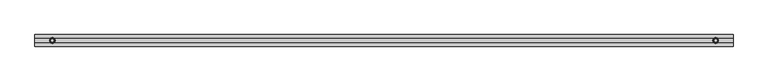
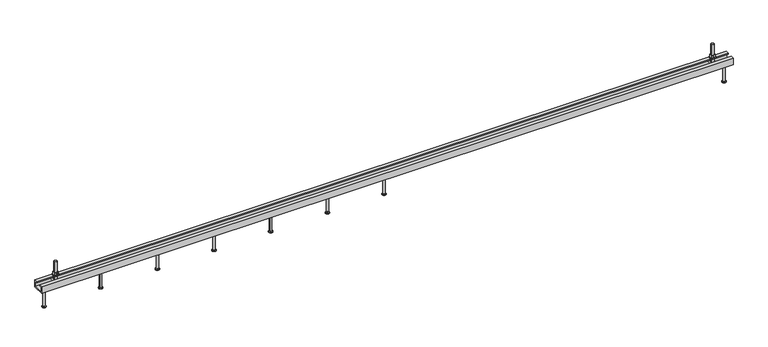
"""IFC4 building model written with IfcOpenShell, lengths in millimetres: fastener geometry, JTA-W JORDAHL® AnchorChannels : JTA-W L=3000 mm."""

from ifc_helpers import new_model, si_unit, point, frame, frame_2d, origin, place, context, project, spatial, polyline, circle_curve, trimmed, segment, composite_curve, outline, extrude, source, transform, mapped, element, save
from ifc_brep_helpers import plane_surface, cylinder_surface, revolved_surface, advanced_brep


def fastener_6a71478e(model_context):
    return source(origin(), model_context, "Body", "SolidModel", [
        advanced_brep(
        [(1500.0, 0.0, -30.0), (1486.5, 0.0, -30.0), (1513.5, 0.0, -30.0), (1491.5, 0.0, -115.0), (1500.0, 0.0, -115.0), (1508.5, 0.0, -115.0), (1491.5, 0.0, -113.0), (1508.5, 0.0, -113.0), (1495.5, 0.0, -110.6905989), (1504.5, 0.0, -110.6905989), (1495.5, 0.0, -32.5), (1504.5, 0.0, -32.5)],
        [
            (0, 1),
            (1, 2, circle_curve(frame((1500.0, 0.0, -30.0), z_axis=(0.0, 0.0, 1.0), x_axis=(1.0, 0.0, 0.0)), 13.5)),
            (2, 0),
            (2, 1, circle_curve(frame((1500.0, 0.0, -30.0), z_axis=(0.0, 0.0, 1.0), x_axis=(1.0, 0.0, 0.0)), 13.5)),
            (3, 4),
            (4, 5),
            (5, 3, circle_curve(frame((1500.0, 0.0, -115.0), z_axis=(0.0, 0.0, -1.0), x_axis=(1.0, 0.0, 0.0)), 8.5)),
            (3, 5, circle_curve(frame((1500.0, 0.0, -115.0), z_axis=(0.0, 0.0, -1.0), x_axis=(1.0, 0.0, 0.0)), 8.5)),
            (6, 3),
            (5, 7),
            (7, 6, circle_curve(frame((1500.0, 0.0, -113.0), z_axis=(0.0, 0.0, -1.0), x_axis=(1.0, 0.0, 0.0)), 8.5)),
            (6, 7, circle_curve(frame((1500.0, 0.0, -113.0), z_axis=(0.0, 0.0, -1.0), x_axis=(1.0, 0.0, 0.0)), 8.5)),
            (8, 6),
            (7, 9),
            (9, 8, circle_curve(frame((1500.0, 0.0, -110.6905989), z_axis=(0.0, 0.0, -1.0), x_axis=(1.0, 0.0, 0.0)), 4.5)),
            (8, 9, circle_curve(frame((1500.0, 0.0, -110.6905989), z_axis=(0.0, 0.0, -1.0), x_axis=(1.0, 0.0, 0.0)), 4.5)),
            (10, 8),
            (9, 11),
            (11, 10, circle_curve(frame((1500.0, 0.0, -32.5), z_axis=(0.0, 0.0, -1.0), x_axis=(1.0, 0.0, 0.0)), 4.5)),
            (10, 11, circle_curve(frame((1500.0, 0.0, -32.5), z_axis=(0.0, 0.0, -1.0), x_axis=(1.0, 0.0, 0.0)), 4.5)),
            (1, 10),
            (11, 2),
        ],
        [
            plane_surface(frame((1500.0, 0.0, -30.0), z_axis=(0.0, 0.0, 1.0), x_axis=(1.0, 0.0, 0.0))),
            plane_surface(frame((1500.0, 0.0, -115.0), z_axis=(0.0, 0.0, -1.0), x_axis=(1.0, 0.0, 0.0))),
            cylinder_surface(frame((1500.0, 0.0, 2299.3150031), z_axis=(0.0, 0.0, 1.0), x_axis=(1.0, 0.0, 0.0)), 8.5),
            revolved_surface(polyline([(1508.5, 0.0, -113.0), (1504.5, 0.0, -110.6905989)]), (1500.0, 0.0, 2299.3150031), (0.0, 0.0, 1.0)),
            cylinder_surface(frame((1500.0, 0.0, 2299.3150031), z_axis=(0.0, 0.0, 1.0), x_axis=(1.0, 0.0, 0.0)), 4.5),
            revolved_surface(polyline([(1504.5, 0.0, -32.5), (1513.5, 0.0, -30.0)]), (1500.0, 0.0, 2299.3150031), (0.0, 0.0, 1.0)),
        ],
        [
            (0, [[1, 2, 3]]),
            (0, [[-3, 4, -1]]),
            (1, [[5, 6, 7]]),
            (1, [[-6, -5, 8]]),
            (2, [[9, -7, 10, 11]]),
            (2, [[-10, -8, -9, 12]]),
            (3, [[13, -11, 14, 15]]),
            (3, [[-14, -12, -13, 16]]),
            (4, [[17, -15, 18, 19]]),
            (4, [[-18, -16, -17, 20]]),
            (5, [[21, -19, 22, -2]]),
            (5, [[-22, -20, -21, -4]]),
        ],
    ),
        advanced_brep(
        [(1254.1666667, 0.0, -30.0), (1240.6666667, 0.0, -30.0), (1267.6666667, 0.0, -30.0), (1245.6666667, 0.0, -115.0), (1254.1666667, 0.0, -115.0), (1262.6666667, 0.0, -115.0), (1245.6666667, 0.0, -113.0), (1262.6666667, 0.0, -113.0), (1249.6666667, 0.0, -110.6905989), (1258.6666667, 0.0, -110.6905989), (1249.6666667, 0.0, -32.5), (1258.6666667, 0.0, -32.5)],
        [
            (0, 1),
            (1, 2, circle_curve(frame((1254.1666667, 0.0, -30.0), z_axis=(0.0, 0.0, 1.0), x_axis=(1.0, 0.0, 0.0)), 13.5)),
            (2, 0),
            (2, 1, circle_curve(frame((1254.1666667, 0.0, -30.0), z_axis=(0.0, 0.0, 1.0), x_axis=(1.0, 0.0, 0.0)), 13.5)),
            (3, 4),
            (4, 5),
            (5, 3, circle_curve(frame((1254.1666667, 0.0, -115.0), z_axis=(0.0, 0.0, -1.0), x_axis=(1.0, 0.0, 0.0)), 8.5)),
            (3, 5, circle_curve(frame((1254.1666667, 0.0, -115.0), z_axis=(0.0, 0.0, -1.0), x_axis=(1.0, 0.0, 0.0)), 8.5)),
            (6, 3),
            (5, 7),
            (7, 6, circle_curve(frame((1254.1666667, 0.0, -113.0), z_axis=(0.0, 0.0, -1.0), x_axis=(1.0, 0.0, 0.0)), 8.5)),
            (6, 7, circle_curve(frame((1254.1666667, 0.0, -113.0), z_axis=(0.0, 0.0, -1.0), x_axis=(1.0, 0.0, 0.0)), 8.5)),
            (8, 6),
            (7, 9),
            (9, 8, circle_curve(frame((1254.1666667, 0.0, -110.6905989), z_axis=(0.0, 0.0, -1.0), x_axis=(1.0, 0.0, 0.0)), 4.5)),
            (8, 9, circle_curve(frame((1254.1666667, 0.0, -110.6905989), z_axis=(0.0, 0.0, -1.0), x_axis=(1.0, 0.0, 0.0)), 4.5)),
            (10, 8),
            (9, 11),
            (11, 10, circle_curve(frame((1254.1666667, 0.0, -32.5), z_axis=(0.0, 0.0, -1.0), x_axis=(1.0, 0.0, 0.0)), 4.5)),
            (10, 11, circle_curve(frame((1254.1666667, 0.0, -32.5), z_axis=(0.0, 0.0, -1.0), x_axis=(1.0, 0.0, 0.0)), 4.5)),
            (1, 10),
            (11, 2),
        ],
        [
            plane_surface(frame((1254.1666667, 0.0, -30.0), z_axis=(0.0, 0.0, 1.0), x_axis=(1.0, 0.0, 0.0))),
            plane_surface(frame((1254.1666667, 0.0, -115.0), z_axis=(0.0, 0.0, -1.0), x_axis=(1.0, 0.0, 0.0))),
            cylinder_surface(frame((1254.1666667, 0.0, 2299.3150031), z_axis=(0.0, 0.0, 1.0), x_axis=(1.0, 0.0, 0.0)), 8.5),
            revolved_surface(polyline([(1262.6666667, 0.0, -113.0), (1258.6666667, 0.0, -110.6905989)]), (1254.1666667, 0.0, 2299.3150031), (0.0, 0.0, 1.0)),
            cylinder_surface(frame((1254.1666667, 0.0, 2299.3150031), z_axis=(0.0, 0.0, 1.0), x_axis=(1.0, 0.0, 0.0)), 4.5),
            revolved_surface(polyline([(1258.6666667, 0.0, -32.5), (1267.6666667, 0.0, -30.0)]), (1254.1666667, 0.0, 2299.3150031), (0.0, 0.0, 1.0)),
        ],
        [
            (0, [[1, 2, 3]]),
            (0, [[-3, 4, -1]]),
            (1, [[5, 6, 7]]),
            (1, [[-6, -5, 8]]),
            (2, [[9, -7, 10, 11]]),
            (2, [[-10, -8, -9, 12]]),
            (3, [[13, -11, 14, 15]]),
            (3, [[-14, -12, -13, 16]]),
            (4, [[17, -15, 18, 19]]),
            (4, [[-18, -16, -17, 20]]),
            (5, [[21, -19, 22, -2]]),
            (5, [[-22, -20, -21, -4]]),
        ],
    ),
        advanced_brep(
        [(1008.3333333, 0.0, -30.0), (994.8333333, 0.0, -30.0), (1021.8333333, 0.0, -30.0), (999.8333333, 0.0, -115.0), (1008.3333333, 0.0, -115.0), (1016.8333333, 0.0, -115.0), (999.8333333, 0.0, -113.0), (1016.8333333, 0.0, -113.0), (1003.8333333, 0.0, -110.6905989), (1012.8333333, 0.0, -110.6905989), (1003.8333333, 0.0, -32.5), (1012.8333333, 0.0, -32.5)],
        [
            (0, 1),
            (1, 2, circle_curve(frame((1008.3333333, 0.0, -30.0), z_axis=(0.0, 0.0, 1.0), x_axis=(1.0, 0.0, 0.0)), 13.5)),
            (2, 0),
            (2, 1, circle_curve(frame((1008.3333333, 0.0, -30.0), z_axis=(0.0, 0.0, 1.0), x_axis=(1.0, 0.0, 0.0)), 13.5)),
            (3, 4),
            (4, 5),
            (5, 3, circle_curve(frame((1008.3333333, 0.0, -115.0), z_axis=(0.0, 0.0, -1.0), x_axis=(1.0, 0.0, 0.0)), 8.5)),
            (3, 5, circle_curve(frame((1008.3333333, 0.0, -115.0), z_axis=(0.0, 0.0, -1.0), x_axis=(1.0, 0.0, 0.0)), 8.5)),
            (6, 3),
            (5, 7),
            (7, 6, circle_curve(frame((1008.3333333, 0.0, -113.0), z_axis=(0.0, 0.0, -1.0), x_axis=(1.0, 0.0, 0.0)), 8.5)),
            (6, 7, circle_curve(frame((1008.3333333, 0.0, -113.0), z_axis=(0.0, 0.0, -1.0), x_axis=(1.0, 0.0, 0.0)), 8.5)),
            (8, 6),
            (7, 9),
            (9, 8, circle_curve(frame((1008.3333333, 0.0, -110.6905989), z_axis=(0.0, 0.0, -1.0), x_axis=(1.0, 0.0, 0.0)), 4.5)),
            (8, 9, circle_curve(frame((1008.3333333, 0.0, -110.6905989), z_axis=(0.0, 0.0, -1.0), x_axis=(1.0, 0.0, 0.0)), 4.5)),
            (10, 8),
            (9, 11),
            (11, 10, circle_curve(frame((1008.3333333, 0.0, -32.5), z_axis=(0.0, 0.0, -1.0), x_axis=(1.0, 0.0, 0.0)), 4.5)),
            (10, 11, circle_curve(frame((1008.3333333, 0.0, -32.5), z_axis=(0.0, 0.0, -1.0), x_axis=(1.0, 0.0, 0.0)), 4.5)),
            (1, 10),
            (11, 2),
        ],
        [
            plane_surface(frame((1008.3333333, 0.0, -30.0), z_axis=(0.0, 0.0, 1.0), x_axis=(1.0, 0.0, 0.0))),
            plane_surface(frame((1008.3333333, 0.0, -115.0), z_axis=(0.0, 0.0, -1.0), x_axis=(1.0, 0.0, 0.0))),
            cylinder_surface(frame((1008.3333333, 0.0, 2299.3150031), z_axis=(0.0, 0.0, 1.0), x_axis=(1.0, 0.0, 0.0)), 8.5),
            revolved_surface(polyline([(1016.8333333, 0.0, -113.0), (1012.8333333, 0.0, -110.6905989)]), (1008.3333333, 0.0, 2299.3150031), (0.0, 0.0, 1.0)),
            cylinder_surface(frame((1008.3333333, 0.0, 2299.3150031), z_axis=(0.0, 0.0, 1.0), x_axis=(1.0, 0.0, 0.0)), 4.5),
            revolved_surface(polyline([(1012.8333333, 0.0, -32.5), (1021.8333333, 0.0, -30.0)]), (1008.3333333, 0.0, 2299.3150031), (0.0, 0.0, 1.0)),
        ],
        [
            (0, [[1, 2, 3]]),
            (0, [[-3, 4, -1]]),
            (1, [[5, 6, 7]]),
            (1, [[-6, -5, 8]]),
            (2, [[9, -7, 10, 11]]),
            (2, [[-10, -8, -9, 12]]),
            (3, [[13, -11, 14, 15]]),
            (3, [[-14, -12, -13, 16]]),
            (4, [[17, -15, 18, 19]]),
            (4, [[-18, -16, -17, 20]]),
            (5, [[21, -19, 22, -2]]),
            (5, [[-22, -20, -21, -4]]),
        ],
    ),
        advanced_brep(
        [(762.5, 0.0, -30.0), (749.0, 0.0, -30.0), (776.0, 0.0, -30.0), (754.0, 0.0, -115.0), (762.5, 0.0, -115.0), (771.0, 0.0, -115.0), (754.0, 0.0, -113.0), (771.0, 0.0, -113.0), (758.0, 0.0, -110.6905989), (767.0, 0.0, -110.6905989), (758.0, 0.0, -32.5), (767.0, 0.0, -32.5)],
        [
            (0, 1),
            (1, 2, circle_curve(frame((762.5, 0.0, -30.0), z_axis=(0.0, 0.0, 1.0), x_axis=(1.0, 0.0, 0.0)), 13.5)),
            (2, 0),
            (2, 1, circle_curve(frame((762.5, 0.0, -30.0), z_axis=(0.0, 0.0, 1.0), x_axis=(1.0, 0.0, 0.0)), 13.5)),
            (3, 4),
            (4, 5),
            (5, 3, circle_curve(frame((762.5, 0.0, -115.0), z_axis=(0.0, 0.0, -1.0), x_axis=(1.0, 0.0, 0.0)), 8.5)),
            (3, 5, circle_curve(frame((762.5, 0.0, -115.0), z_axis=(0.0, 0.0, -1.0), x_axis=(1.0, 0.0, 0.0)), 8.5)),
            (6, 3),
            (5, 7),
            (7, 6, circle_curve(frame((762.5, 0.0, -113.0), z_axis=(0.0, 0.0, -1.0), x_axis=(1.0, 0.0, 0.0)), 8.5)),
            (6, 7, circle_curve(frame((762.5, 0.0, -113.0), z_axis=(0.0, 0.0, -1.0), x_axis=(1.0, 0.0, 0.0)), 8.5)),
            (8, 6),
            (7, 9),
            (9, 8, circle_curve(frame((762.5, 0.0, -110.6905989), z_axis=(0.0, 0.0, -1.0), x_axis=(1.0, 0.0, 0.0)), 4.5)),
            (8, 9, circle_curve(frame((762.5, 0.0, -110.6905989), z_axis=(0.0, 0.0, -1.0), x_axis=(1.0, 0.0, 0.0)), 4.5)),
            (10, 8),
            (9, 11),
            (11, 10, circle_curve(frame((762.5, 0.0, -32.5), z_axis=(0.0, 0.0, -1.0), x_axis=(1.0, 0.0, 0.0)), 4.5)),
            (10, 11, circle_curve(frame((762.5, 0.0, -32.5), z_axis=(0.0, 0.0, -1.0), x_axis=(1.0, 0.0, 0.0)), 4.5)),
            (1, 10),
            (11, 2),
        ],
        [
            plane_surface(frame((762.5, 0.0, -30.0), z_axis=(0.0, 0.0, 1.0), x_axis=(1.0, 0.0, 0.0))),
            plane_surface(frame((762.5, 0.0, -115.0), z_axis=(0.0, 0.0, -1.0), x_axis=(1.0, 0.0, 0.0))),
            cylinder_surface(frame((762.5, 0.0, 2299.3150031), z_axis=(0.0, 0.0, 1.0), x_axis=(1.0, 0.0, 0.0)), 8.5),
            revolved_surface(polyline([(771.0, 0.0, -113.0), (767.0, 0.0, -110.6905989)]), (762.5, 0.0, 2299.3150031), (0.0, 0.0, 1.0)),
            cylinder_surface(frame((762.5, 0.0, 2299.3150031), z_axis=(0.0, 0.0, 1.0), x_axis=(1.0, 0.0, 0.0)), 4.5),
            revolved_surface(polyline([(767.0, 0.0, -32.5), (776.0, 0.0, -30.0)]), (762.5, 0.0, 2299.3150031), (0.0, 0.0, 1.0)),
        ],
        [
            (0, [[1, 2, 3]]),
            (0, [[-3, 4, -1]]),
            (1, [[5, 6, 7]]),
            (1, [[-6, -5, 8]]),
            (2, [[9, -7, 10, 11]]),
            (2, [[-10, -8, -9, 12]]),
            (3, [[13, -11, 14, 15]]),
            (3, [[-14, -12, -13, 16]]),
            (4, [[17, -15, 18, 19]]),
            (4, [[-18, -16, -17, 20]]),
            (5, [[21, -19, 22, -2]]),
            (5, [[-22, -20, -21, -4]]),
        ],
    ),
        advanced_brep(
        [(516.6666667, 0.0, -30.0), (503.1666667, 0.0, -30.0), (530.1666667, 0.0, -30.0), (508.1666667, 0.0, -115.0), (516.6666667, 0.0, -115.0), (525.1666667, 0.0, -115.0), (508.1666667, 0.0, -113.0), (525.1666667, 0.0, -113.0), (512.1666667, 0.0, -110.6905989), (521.1666667, 0.0, -110.6905989), (512.1666667, 0.0, -32.5), (521.1666667, 0.0, -32.5)],
        [
            (0, 1),
            (1, 2, circle_curve(frame((516.6666667, 0.0, -30.0), z_axis=(0.0, 0.0, 1.0), x_axis=(1.0, 0.0, 0.0)), 13.5)),
            (2, 0),
            (2, 1, circle_curve(frame((516.6666667, 0.0, -30.0), z_axis=(0.0, 0.0, 1.0), x_axis=(1.0, 0.0, 0.0)), 13.5)),
            (3, 4),
            (4, 5),
            (5, 3, circle_curve(frame((516.6666667, 0.0, -115.0), z_axis=(0.0, 0.0, -1.0), x_axis=(1.0, 0.0, 0.0)), 8.5)),
            (3, 5, circle_curve(frame((516.6666667, 0.0, -115.0), z_axis=(0.0, 0.0, -1.0), x_axis=(1.0, 0.0, 0.0)), 8.5)),
            (6, 3),
            (5, 7),
            (7, 6, circle_curve(frame((516.6666667, 0.0, -113.0), z_axis=(0.0, 0.0, -1.0), x_axis=(1.0, 0.0, 0.0)), 8.5)),
            (6, 7, circle_curve(frame((516.6666667, 0.0, -113.0), z_axis=(0.0, 0.0, -1.0), x_axis=(1.0, 0.0, 0.0)), 8.5)),
            (8, 6),
            (7, 9),
            (9, 8, circle_curve(frame((516.6666667, 0.0, -110.6905989), z_axis=(0.0, 0.0, -1.0), x_axis=(1.0, 0.0, 0.0)), 4.5)),
            (8, 9, circle_curve(frame((516.6666667, 0.0, -110.6905989), z_axis=(0.0, 0.0, -1.0), x_axis=(1.0, 0.0, 0.0)), 4.5)),
            (10, 8),
            (9, 11),
            (11, 10, circle_curve(frame((516.6666667, 0.0, -32.5), z_axis=(0.0, 0.0, -1.0), x_axis=(1.0, 0.0, 0.0)), 4.5)),
            (10, 11, circle_curve(frame((516.6666667, 0.0, -32.5), z_axis=(0.0, 0.0, -1.0), x_axis=(1.0, 0.0, 0.0)), 4.5)),
            (1, 10),
            (11, 2),
        ],
        [
            plane_surface(frame((516.6666667, 0.0, -30.0), z_axis=(0.0, 0.0, 1.0), x_axis=(1.0, 0.0, 0.0))),
            plane_surface(frame((516.6666667, 0.0, -115.0), z_axis=(0.0, 0.0, -1.0), x_axis=(1.0, 0.0, 0.0))),
            cylinder_surface(frame((516.6666667, 0.0, 2299.3150031), z_axis=(0.0, 0.0, 1.0), x_axis=(1.0, 0.0, 0.0)), 8.5),
            revolved_surface(polyline([(525.1666667, 0.0, -113.0), (521.1666667, 0.0, -110.6905989)]), (516.6666667, 0.0, 2299.3150031), (0.0, 0.0, 1.0)),
            cylinder_surface(frame((516.6666667, 0.0, 2299.3150031), z_axis=(0.0, 0.0, 1.0), x_axis=(1.0, 0.0, 0.0)), 4.5),
            revolved_surface(polyline([(521.1666667, 0.0, -32.5), (530.1666667, 0.0, -30.0)]), (516.6666667, 0.0, 2299.3150031), (0.0, 0.0, 1.0)),
        ],
        [
            (0, [[1, 2, 3]]),
            (0, [[-3, 4, -1]]),
            (1, [[5, 6, 7]]),
            (1, [[-6, -5, 8]]),
            (2, [[9, -7, 10, 11]]),
            (2, [[-10, -8, -9, 12]]),
            (3, [[13, -11, 14, 15]]),
            (3, [[-14, -12, -13, 16]]),
            (4, [[17, -15, 18, 19]]),
            (4, [[-18, -16, -17, 20]]),
            (5, [[21, -19, 22, -2]]),
            (5, [[-22, -20, -21, -4]]),
        ],
    ),
        advanced_brep(
        [(270.8333333, 0.0, -30.0), (257.3333333, 0.0, -30.0), (284.3333333, 0.0, -30.0), (262.3333333, 0.0, -115.0), (270.8333333, 0.0, -115.0), (279.3333333, 0.0, -115.0), (262.3333333, 0.0, -113.0), (279.3333333, 0.0, -113.0), (266.3333333, 0.0, -110.6905989), (275.3333333, 0.0, -110.6905989), (266.3333333, 0.0, -32.5), (275.3333333, 0.0, -32.5)],
        [
            (0, 1),
            (1, 2, circle_curve(frame((270.8333333, 0.0, -30.0), z_axis=(0.0, 0.0, 1.0), x_axis=(1.0, 0.0, 0.0)), 13.5)),
            (2, 0),
            (2, 1, circle_curve(frame((270.8333333, 0.0, -30.0), z_axis=(0.0, 0.0, 1.0), x_axis=(1.0, 0.0, 0.0)), 13.5)),
            (3, 4),
            (4, 5),
            (5, 3, circle_curve(frame((270.8333333, 0.0, -115.0), z_axis=(0.0, 0.0, -1.0), x_axis=(1.0, 0.0, 0.0)), 8.5)),
            (3, 5, circle_curve(frame((270.8333333, 0.0, -115.0), z_axis=(0.0, 0.0, -1.0), x_axis=(1.0, 0.0, 0.0)), 8.5)),
            (6, 3),
            (5, 7),
            (7, 6, circle_curve(frame((270.8333333, 0.0, -113.0), z_axis=(0.0, 0.0, -1.0), x_axis=(1.0, 0.0, 0.0)), 8.5)),
            (6, 7, circle_curve(frame((270.8333333, 0.0, -113.0), z_axis=(0.0, 0.0, -1.0), x_axis=(1.0, 0.0, 0.0)), 8.5)),
            (8, 6),
            (7, 9),
            (9, 8, circle_curve(frame((270.8333333, 0.0, -110.6905989), z_axis=(0.0, 0.0, -1.0), x_axis=(1.0, 0.0, 0.0)), 4.5)),
            (8, 9, circle_curve(frame((270.8333333, 0.0, -110.6905989), z_axis=(0.0, 0.0, -1.0), x_axis=(1.0, 0.0, 0.0)), 4.5)),
            (10, 8),
            (9, 11),
            (11, 10, circle_curve(frame((270.8333333, 0.0, -32.5), z_axis=(0.0, 0.0, -1.0), x_axis=(1.0, 0.0, 0.0)), 4.5)),
            (10, 11, circle_curve(frame((270.8333333, 0.0, -32.5), z_axis=(0.0, 0.0, -1.0), x_axis=(1.0, 0.0, 0.0)), 4.5)),
            (1, 10),
            (11, 2),
        ],
        [
            plane_surface(frame((270.8333333, 0.0, -30.0), z_axis=(0.0, 0.0, 1.0), x_axis=(1.0, 0.0, 0.0))),
            plane_surface(frame((270.8333333, 0.0, -115.0), z_axis=(0.0, 0.0, -1.0), x_axis=(1.0, 0.0, 0.0))),
            cylinder_surface(frame((270.8333333, 0.0, 2299.3150031), z_axis=(0.0, 0.0, 1.0), x_axis=(1.0, 0.0, 0.0)), 8.5),
            revolved_surface(polyline([(279.3333333, 0.0, -113.0), (275.3333333, 0.0, -110.6905989)]), (270.8333333, 0.0, 2299.3150031), (0.0, 0.0, 1.0)),
            cylinder_surface(frame((270.8333333, 0.0, 2299.3150031), z_axis=(0.0, 0.0, 1.0), x_axis=(1.0, 0.0, 0.0)), 4.5),
            revolved_surface(polyline([(275.3333333, 0.0, -32.5), (284.3333333, 0.0, -30.0)]), (270.8333333, 0.0, 2299.3150031), (0.0, 0.0, 1.0)),
        ],
        [
            (0, [[1, 2, 3]]),
            (0, [[-3, 4, -1]]),
            (1, [[5, 6, 7]]),
            (1, [[-6, -5, 8]]),
            (2, [[9, -7, 10, 11]]),
            (2, [[-10, -8, -9, 12]]),
            (3, [[13, -11, 14, 15]]),
            (3, [[-14, -12, -13, 16]]),
            (4, [[17, -15, 18, 19]]),
            (4, [[-18, -16, -17, 20]]),
            (5, [[21, -19, 22, -2]]),
            (5, [[-22, -20, -21, -4]]),
        ],
    ),
        extrude(outline(polyline([(2925.0, -10.3923048), (2916.0, -5.1961524), (2916.0, 5.1961524), (2925.0, 10.3923048), (2934.0, 5.1961524), (2934.0, -5.1961524), (2925.0, -10.3923048)]), holes=[composite_curve([segment(trimmed(circle_curve(frame_2d((2925.0, 0.0)), 6.0), [point((2919.0, 0.0))], [point((2931.0, 0.0))], True, "CARTESIAN"), True, "CONTINUOUS"), segment(trimmed(circle_curve(frame_2d((2925.0, 0.0)), 6.0), [point((2931.0, 0.0))], [point((2919.0, 0.0))], True, "CARTESIAN"), True, "CONTINUOUS")], self_intersect=False)]), frame((0.0, 0.0, 17.5), z_axis=(0.0, 0.0, 1.0), x_axis=(1.0, 0.0, 0.0)), (0.0, 0.0, 1.0), 10.8),
        extrude(outline(composite_curve([segment(trimmed(circle_curve(frame_2d((2925.0, 0.0)), 12.0), [point((2913.0, 0.0))], [point((2937.0, 0.0))], False, "CARTESIAN"), True, "CONTINUOUS"), segment(trimmed(circle_curve(frame_2d((2925.0, 0.0)), 12.0), [point((2937.0, 0.0))], [point((2913.0, 0.0))], False, "CARTESIAN"), True, "CONTINUOUS")], self_intersect=False), holes=[composite_curve([segment(trimmed(circle_curve(frame_2d((2925.0, 0.0)), 6.5), [point((2918.5, 0.0))], [point((2931.5, 0.0))], True, "CARTESIAN"), True, "CONTINUOUS"), segment(trimmed(circle_curve(frame_2d((2925.0, 0.0)), 6.5), [point((2931.5, 0.0))], [point((2918.5, 0.0))], True, "CARTESIAN"), True, "CONTINUOUS")], self_intersect=False)]), frame((0.0, 0.0, 15.0), z_axis=(0.0, 0.0, 1.0), x_axis=(1.0, 0.0, 0.0)), (0.0, 0.0, 1.0), 2.5),
        extrude(outline(polyline([(75.0, -10.3923048), (66.0, -5.1961524), (66.0, 5.1961524), (75.0, 10.3923048), (84.0, 5.1961524), (84.0, -5.1961524), (75.0, -10.3923048)]), holes=[composite_curve([segment(trimmed(circle_curve(frame_2d((75.0, 0.0)), 6.0), [point((69.0, 0.0))], [point((81.0, 0.0))], True, "CARTESIAN"), True, "CONTINUOUS"), segment(trimmed(circle_curve(frame_2d((75.0, 0.0)), 6.0), [point((81.0, 0.0))], [point((69.0, 0.0))], True, "CARTESIAN"), True, "CONTINUOUS")], self_intersect=False)]), frame((0.0, 0.0, 17.5), z_axis=(0.0, 0.0, 1.0), x_axis=(1.0, 0.0, 0.0)), (0.0, 0.0, 1.0), 10.8),
        extrude(outline(composite_curve([segment(trimmed(circle_curve(frame_2d((75.0, 0.0)), 12.0), [point((63.0, 0.0))], [point((87.0, 0.0))], False, "CARTESIAN"), True, "CONTINUOUS"), segment(trimmed(circle_curve(frame_2d((75.0, 0.0)), 12.0), [point((87.0, 0.0))], [point((63.0, 0.0))], False, "CARTESIAN"), True, "CONTINUOUS")], self_intersect=False), holes=[composite_curve([segment(trimmed(circle_curve(frame_2d((75.0, 0.0)), 6.5), [point((68.5, 0.0))], [point((81.5, 0.0))], True, "CARTESIAN"), True, "CONTINUOUS"), segment(trimmed(circle_curve(frame_2d((75.0, 0.0)), 6.5), [point((81.5, 0.0))], [point((68.5, 0.0))], True, "CARTESIAN"), True, "CONTINUOUS")], self_intersect=False)]), frame((0.0, 0.0, 15.0), z_axis=(0.0, 0.0, 1.0), x_axis=(1.0, 0.0, 0.0)), (0.0, 0.0, 1.0), 2.5),
        advanced_brep(
        [(2933.5, -20.7, -4.0), (2933.5, -20.7, -14.0), (2933.5, 20.7, -14.0), (2933.5, 20.7, -4.0), (2916.5, -20.7, -4.0), (2916.5, 20.7, -4.0), (2916.5, 20.7, -14.0), (2916.5, -20.7, -14.0), (2931.0, 0.0, -4.0), (2919.0, 0.0, -4.0), (2919.0, 0.0, 76.0), (2931.0, 0.0, 76.0)],
        [
            (0, 1),
            (1, 2),
            (2, 3),
            (3, 0),
            (4, 5),
            (5, 6),
            (6, 7),
            (7, 4),
            (3, 5),
            (4, 0),
            (8, 9, circle_curve(frame((2925.0, 0.0, -4.0), z_axis=(0.0, 0.0, -1.0), x_axis=(1.0, 0.0, 0.0)), 6.0)),
            (9, 8, circle_curve(frame((2925.0, 0.0, -4.0), z_axis=(0.0, 0.0, -1.0), x_axis=(1.0, 0.0, 0.0)), 6.0)),
            (2, 6),
            (1, 7),
            (10, 11, circle_curve(frame((2925.0, 0.0, 76.0), z_axis=(0.0, 0.0, 1.0), x_axis=(1.0, 0.0, 0.0)), 6.0)),
            (11, 10, circle_curve(frame((2925.0, 0.0, 76.0), z_axis=(0.0, 0.0, 1.0), x_axis=(1.0, 0.0, 0.0)), 6.0)),
            (11, 8),
            (9, 10),
        ],
        [
            plane_surface(frame((2933.5, 20.7, -4.0), z_axis=(1.0, 0.0, 0.0), x_axis=(0.0, 1.0, 0.0))),
            plane_surface(frame((2916.5, 20.7, -4.0), z_axis=(-1.0, 0.0, 0.0), x_axis=(0.0, -1.0, 0.0))),
            plane_surface(frame((2933.5, -20.7, -4.0), z_axis=(0.0, 0.0, 1.0), x_axis=(-1.0, 0.0, 0.0))),
            plane_surface(frame((2933.5, 20.7, -4.0), z_axis=(0.0, 1.0, 0.0), x_axis=(-1.0, 0.0, 0.0))),
            plane_surface(frame((2933.5, 20.7, -14.0), z_axis=(0.0, 0.0, -1.0), x_axis=(-1.0, 0.0, 0.0))),
            plane_surface(frame((2933.5, -20.7, -14.0), z_axis=(0.0, -1.0, 0.0), x_axis=(-1.0, 0.0, 0.0))),
            plane_surface(frame((2931.0, 0.0, 76.0), z_axis=(0.0, 0.0, 1.0), x_axis=(0.0, -1.0, 0.0))),
            cylinder_surface(frame((2925.0, 0.0, -4.0), z_axis=(0.0, 0.0, 1.0), x_axis=(1.0, 0.0, 0.0)), 6.0),
        ],
        [
            (0, [[1, 2, 3, 4]]),
            (1, [[5, 6, 7, 8]]),
            (2, [[9, -5, 10, -4], [11, 12]]),
            (3, [[13, -6, -9, -3]]),
            (4, [[14, -7, -13, -2]]),
            (5, [[-10, -8, -14, -1]]),
            (6, [[15, 16]]),
            (7, [[17, -12, 18, -16]]),
            (7, [[-18, -11, -17, -15]]),
        ],
    ),
        advanced_brep(
        [(83.5, -20.7, -4.0), (83.5, -20.7, -14.0), (83.5, 20.7, -14.0), (83.5, 20.7, -4.0), (66.5, -20.7, -4.0), (66.5, 20.7, -4.0), (66.5, 20.7, -14.0), (66.5, -20.7, -14.0), (81.0, 0.0, -4.0), (69.0, 0.0, -4.0), (69.0, 0.0, 76.0), (81.0, 0.0, 76.0)],
        [
            (0, 1),
            (1, 2),
            (2, 3),
            (3, 0),
            (4, 5),
            (5, 6),
            (6, 7),
            (7, 4),
            (3, 5),
            (4, 0),
            (8, 9, circle_curve(frame((75.0, 0.0, -4.0), z_axis=(0.0, 0.0, -1.0), x_axis=(1.0, 0.0, 0.0)), 6.0)),
            (9, 8, circle_curve(frame((75.0, 0.0, -4.0), z_axis=(0.0, 0.0, -1.0), x_axis=(1.0, 0.0, 0.0)), 6.0)),
            (2, 6),
            (1, 7),
            (10, 11, circle_curve(frame((75.0, 0.0, 76.0), z_axis=(0.0, 0.0, 1.0), x_axis=(1.0, 0.0, 0.0)), 6.0)),
            (11, 10, circle_curve(frame((75.0, 0.0, 76.0), z_axis=(0.0, 0.0, 1.0), x_axis=(1.0, 0.0, 0.0)), 6.0)),
            (11, 8),
            (9, 10),
        ],
        [
            plane_surface(frame((83.5, 20.7, -4.0), z_axis=(1.0, 0.0, 0.0), x_axis=(0.0, 1.0, 0.0))),
            plane_surface(frame((66.5, 20.7, -4.0), z_axis=(-1.0, 0.0, 0.0), x_axis=(0.0, -1.0, 0.0))),
            plane_surface(frame((83.5, -20.7, -4.0), z_axis=(0.0, 0.0, 1.0), x_axis=(-1.0, 0.0, 0.0))),
            plane_surface(frame((83.5, 20.7, -4.0), z_axis=(0.0, 1.0, 0.0), x_axis=(-1.0, 0.0, 0.0))),
            plane_surface(frame((83.5, 20.7, -14.0), z_axis=(0.0, 0.0, -1.0), x_axis=(-1.0, 0.0, 0.0))),
            plane_surface(frame((83.5, -20.7, -14.0), z_axis=(0.0, -1.0, 0.0), x_axis=(-1.0, 0.0, 0.0))),
            plane_surface(frame((81.0, 0.0, 76.0), z_axis=(0.0, 0.0, 1.0), x_axis=(0.0, -1.0, 0.0))),
            cylinder_surface(frame((75.0, 0.0, -4.0), z_axis=(0.0, 0.0, 1.0), x_axis=(1.0, 0.0, 0.0)), 6.0),
        ],
        [
            (0, [[1, 2, 3, 4]]),
            (1, [[5, 6, 7, 8]]),
            (2, [[9, -5, 10, -4], [11, 12]]),
            (3, [[13, -6, -9, -3]]),
            (4, [[14, -7, -13, -2]]),
            (5, [[-10, -8, -14, -1]]),
            (6, [[15, 16]]),
            (7, [[17, -12, 18, -16]]),
            (7, [[-18, -11, -17, -15]]),
        ],
    ),
        advanced_brep(
        [(2975.0, 0.0, -30.0), (2961.5, 0.0, -30.0), (2988.5, 0.0, -30.0), (2966.5, 0.0, -115.0), (2975.0, 0.0, -115.0), (2983.5, 0.0, -115.0), (2966.5, 0.0, -113.0), (2983.5, 0.0, -113.0), (2970.5, 0.0, -110.6905989), (2979.5, 0.0, -110.6905989), (2970.5, 0.0, -32.5), (2979.5, 0.0, -32.5)],
        [
            (0, 1),
            (1, 2, circle_curve(frame((2975.0, 0.0, -30.0), z_axis=(0.0, 0.0, 1.0), x_axis=(1.0, 0.0, 0.0)), 13.5)),
            (2, 0),
            (2, 1, circle_curve(frame((2975.0, 0.0, -30.0), z_axis=(0.0, 0.0, 1.0), x_axis=(1.0, 0.0, 0.0)), 13.5)),
            (3, 4),
            (4, 5),
            (5, 3, circle_curve(frame((2975.0, 0.0, -115.0), z_axis=(0.0, 0.0, -1.0), x_axis=(1.0, 0.0, 0.0)), 8.5)),
            (3, 5, circle_curve(frame((2975.0, 0.0, -115.0), z_axis=(0.0, 0.0, -1.0), x_axis=(1.0, 0.0, 0.0)), 8.5)),
            (6, 3),
            (5, 7),
            (7, 6, circle_curve(frame((2975.0, 0.0, -113.0), z_axis=(0.0, 0.0, -1.0), x_axis=(1.0, 0.0, 0.0)), 8.5)),
            (6, 7, circle_curve(frame((2975.0, 0.0, -113.0), z_axis=(0.0, 0.0, -1.0), x_axis=(1.0, 0.0, 0.0)), 8.5)),
            (8, 6),
            (7, 9),
            (9, 8, circle_curve(frame((2975.0, 0.0, -110.6905989), z_axis=(0.0, 0.0, -1.0), x_axis=(1.0, 0.0, 0.0)), 4.5)),
            (8, 9, circle_curve(frame((2975.0, 0.0, -110.6905989), z_axis=(0.0, 0.0, -1.0), x_axis=(1.0, 0.0, 0.0)), 4.5)),
            (10, 8),
            (9, 11),
            (11, 10, circle_curve(frame((2975.0, 0.0, -32.5), z_axis=(0.0, 0.0, -1.0), x_axis=(1.0, 0.0, 0.0)), 4.5)),
            (10, 11, circle_curve(frame((2975.0, 0.0, -32.5), z_axis=(0.0, 0.0, -1.0), x_axis=(1.0, 0.0, 0.0)), 4.5)),
            (1, 10),
            (11, 2),
        ],
        [
            plane_surface(frame((2975.0, 0.0, -30.0), z_axis=(0.0, 0.0, 1.0), x_axis=(1.0, 0.0, 0.0))),
            plane_surface(frame((2975.0, 0.0, -115.0), z_axis=(0.0, 0.0, -1.0), x_axis=(1.0, 0.0, 0.0))),
            cylinder_surface(frame((2975.0, 0.0, 2299.3150031), z_axis=(0.0, 0.0, 1.0), x_axis=(1.0, 0.0, 0.0)), 8.5),
            revolved_surface(polyline([(2983.5, 0.0, -113.0), (2979.5, 0.0, -110.6905989)]), (2975.0, 0.0, 2299.3150031), (0.0, 0.0, 1.0)),
            cylinder_surface(frame((2975.0, 0.0, 2299.3150031), z_axis=(0.0, 0.0, 1.0), x_axis=(1.0, 0.0, 0.0)), 4.5),
            revolved_surface(polyline([(2979.5, 0.0, -32.5), (2988.5, 0.0, -30.0)]), (2975.0, 0.0, 2299.3150031), (0.0, 0.0, 1.0)),
        ],
        [
            (0, [[1, 2, 3]]),
            (0, [[-3, 4, -1]]),
            (1, [[5, 6, 7]]),
            (1, [[-6, -5, 8]]),
            (2, [[9, -7, 10, 11]]),
            (2, [[-10, -8, -9, 12]]),
            (3, [[13, -11, 14, 15]]),
            (3, [[-14, -12, -13, 16]]),
            (4, [[17, -15, 18, 19]]),
            (4, [[-18, -16, -17, 20]]),
            (5, [[21, -19, 22, -2]]),
            (5, [[-22, -20, -21, -4]]),
        ],
    ),
        advanced_brep(
        [(25.0, 0.0, -30.0), (11.5, 0.0, -30.0), (38.5, 0.0, -30.0), (16.5, 0.0, -115.0), (25.0, 0.0, -115.0), (33.5, 0.0, -115.0), (16.5, 0.0, -113.0), (33.5, 0.0, -113.0), (20.5, 0.0, -110.6905989), (29.5, 0.0, -110.6905989), (20.5, 0.0, -32.5), (29.5, 0.0, -32.5)],
        [
            (0, 1),
            (1, 2, circle_curve(frame((25.0, 0.0, -30.0), z_axis=(0.0, 0.0, 1.0), x_axis=(1.0, 0.0, 0.0)), 13.5)),
            (2, 0),
            (2, 1, circle_curve(frame((25.0, 0.0, -30.0), z_axis=(0.0, 0.0, 1.0), x_axis=(1.0, 0.0, 0.0)), 13.5)),
            (3, 4),
            (4, 5),
            (5, 3, circle_curve(frame((25.0, 0.0, -115.0), z_axis=(0.0, 0.0, -1.0), x_axis=(1.0, 0.0, 0.0)), 8.5)),
            (3, 5, circle_curve(frame((25.0, 0.0, -115.0), z_axis=(0.0, 0.0, -1.0), x_axis=(1.0, 0.0, 0.0)), 8.5)),
            (6, 3),
            (5, 7),
            (7, 6, circle_curve(frame((25.0, 0.0, -113.0), z_axis=(0.0, 0.0, -1.0), x_axis=(1.0, 0.0, 0.0)), 8.5)),
            (6, 7, circle_curve(frame((25.0, 0.0, -113.0), z_axis=(0.0, 0.0, -1.0), x_axis=(1.0, 0.0, 0.0)), 8.5)),
            (8, 6),
            (7, 9),
            (9, 8, circle_curve(frame((25.0, 0.0, -110.6905989), z_axis=(0.0, 0.0, -1.0), x_axis=(1.0, 0.0, 0.0)), 4.5)),
            (8, 9, circle_curve(frame((25.0, 0.0, -110.6905989), z_axis=(0.0, 0.0, -1.0), x_axis=(1.0, 0.0, 0.0)), 4.5)),
            (10, 8),
            (9, 11),
            (11, 10, circle_curve(frame((25.0, 0.0, -32.5), z_axis=(0.0, 0.0, -1.0), x_axis=(1.0, 0.0, 0.0)), 4.5)),
            (10, 11, circle_curve(frame((25.0, 0.0, -32.5), z_axis=(0.0, 0.0, -1.0), x_axis=(1.0, 0.0, 0.0)), 4.5)),
            (1, 10),
            (11, 2),
        ],
        [
            plane_surface(frame((25.0, 0.0, -30.0), z_axis=(0.0, 0.0, 1.0), x_axis=(1.0, 0.0, 0.0))),
            plane_surface(frame((25.0, 0.0, -115.0), z_axis=(0.0, 0.0, -1.0), x_axis=(1.0, 0.0, 0.0))),
            cylinder_surface(frame((25.0, 0.0, 2299.3150031), z_axis=(0.0, 0.0, 1.0), x_axis=(1.0, 0.0, 0.0)), 8.5),
            revolved_surface(polyline([(33.5, 0.0, -113.0), (29.5, 0.0, -110.6905989)]), (25.0, 0.0, 2299.3150031), (0.0, 0.0, 1.0)),
            cylinder_surface(frame((25.0, 0.0, 2299.3150031), z_axis=(0.0, 0.0, 1.0), x_axis=(1.0, 0.0, 0.0)), 4.5),
            revolved_surface(polyline([(29.5, 0.0, -32.5), (38.5, 0.0, -30.0)]), (25.0, 0.0, 2299.3150031), (0.0, 0.0, 1.0)),
        ],
        [
            (0, [[1, 2, 3]]),
            (0, [[-3, 4, -1]]),
            (1, [[5, 6, 7]]),
            (1, [[-6, -5, 8]]),
            (2, [[9, -7, 10, 11]]),
            (2, [[-10, -8, -9, 12]]),
            (3, [[13, -11, 14, 15]]),
            (3, [[-14, -12, -13, 16]]),
            (4, [[17, -15, 18, 19]]),
            (4, [[-18, -16, -17, 20]]),
            (5, [[21, -19, 22, -2]]),
            (5, [[-22, -20, -21, -4]]),
        ],
    ),
        extrude(outline(polyline([(-25.0, 0.0), (-11.25, 0.0), (-11.25, -4.0), (-22.2, -4.0), (-22.2, -27.2), (22.2, -27.2), (22.2, -4.0), (11.25, -4.0), (11.25, 0.0), (25.0, 0.0), (25.0, -30.0), (-25.0, -30.0), (-25.0, 0.0)])), frame((0.0, 0.0, 0.0), z_axis=(1.0, 0.0, 0.0), x_axis=(0.0, 1.0, 0.0)), (0.0, 0.0, 1.0), 3000.0),
    ])


if __name__ == "__main__":
    model = new_model("IFC4")
    model_context = context("Model", 3, world=origin())
    ifc_project = project(units=[si_unit("LENGTHUNIT", "METRE", prefix="MILLI")], contexts=[model_context])
    site = spatial("IfcSite", under=ifc_project)
    building = spatial("IfcBuilding", under=site)
    placement = place(None, origin())
    fastener_shape = fastener_6a71478e(model_context)
    element("IfcFastener", 1, ObjectType="JTA-W JORDAHL® AnchorChannels : JTA-W L=3000 mm", at=placement, inside=building, context=model_context, shape_type="MappedRepresentation", body=[
        mapped(fastener_shape, transform((0.0, 0.0, 0.0), x_axis=(1.0, 0.0, 0.0), y_axis=(0.0, 1.0, 0.0), z_axis=(0.0, 0.0, 1.0))),
    ])
    save(model, "model.ifc")
